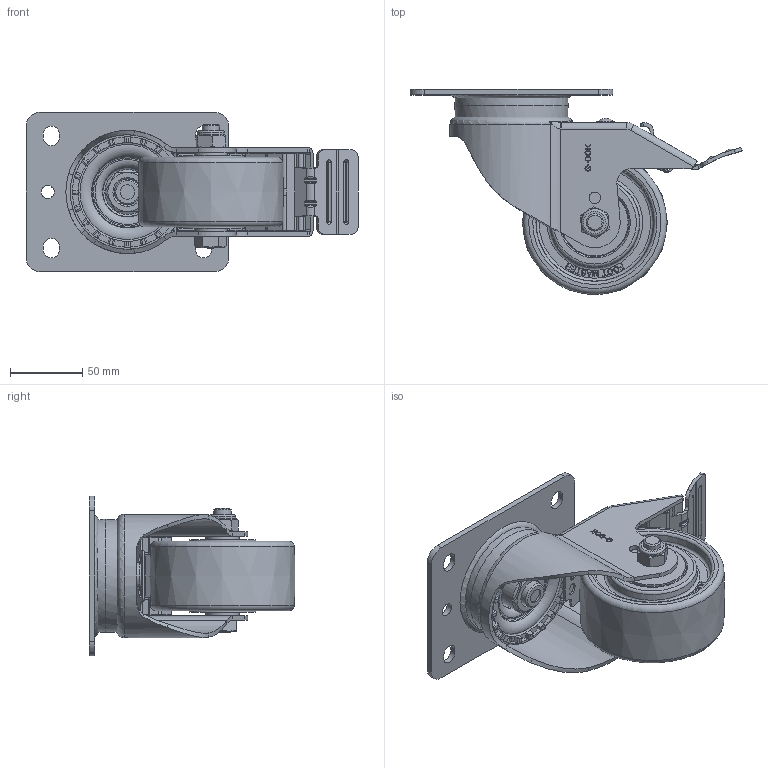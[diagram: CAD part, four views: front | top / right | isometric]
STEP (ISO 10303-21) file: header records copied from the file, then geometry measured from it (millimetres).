
FILE_DESCRIPTION(/* description */ (''),/* implementation_level */ '2;1');
FILE_NAME(/* name */ 'C:\Users\admin\Desktop\업무폴더\일자별 업무\2026\05월\05.15\변환\SPH-100-BSF-NYD-PEU.ipt.stp',/* time_stamp */ '2026-05-15T13:16:49+09:00',/* author */ ('admin'),/* organization */ ('지덕산업'),/* preprocessor_version */ 'ST-DEVELOPER v18.1',/* originating_system */ 'Autodesk Inventor 2021',/* authorisation */ '');
FILE_SCHEMA (('CONFIG_CONTROL_DESIGN'));
Products named in the file (1): SPH-100-BSF-NYD-PEU
Bounding box: 229.04 x 141.96 x 110 mm (x, y, z)
Volume: 593927.5 mm3; surface area: 140236.2 mm2
Topology: 1 solids, 2 shells, 1588 faces, 4317 edges, 2802 vertices
Faces by surface type: plane 706, bspline 512, cylinder 274, cone 49, torus 46, sphere 1
Full cylindrical faces by diameter (mm): 6 x1, 8 x5, 9 x3, 10 x1, 12 x2, 18 x2, 18.5 x1, 31 x1, 31.177 x1, 46.001 x2, 47 x2
Entity records: 53965 total; most frequent: CARTESIAN_POINT 16982, ORIENTED_EDGE 8598, DIRECTION 6119, EDGE_CURVE 4301, VERTEX_POINT 2802, LINE 2401, VECTOR 2401, AXIS2_PLACEMENT_3D 1859
